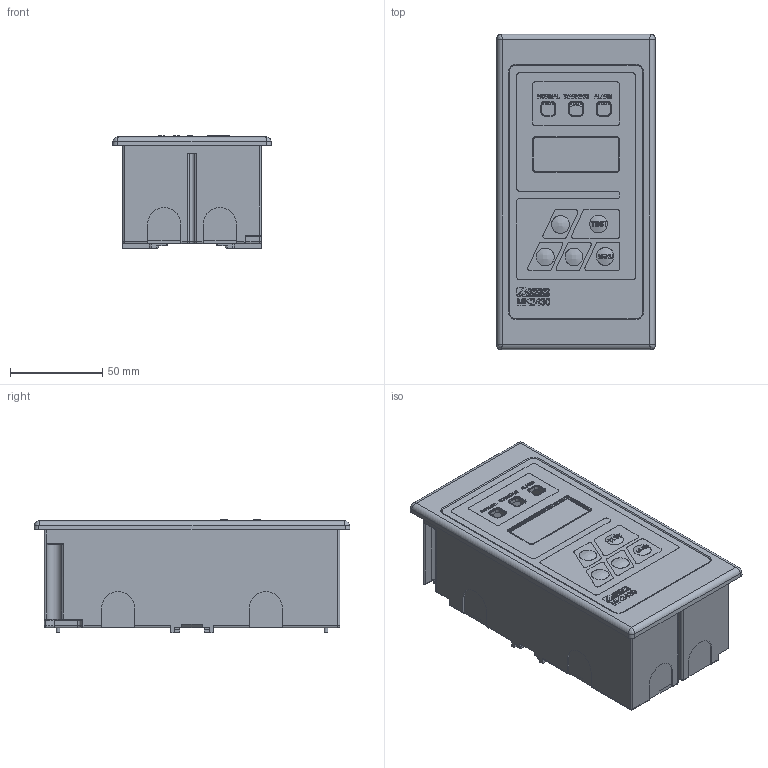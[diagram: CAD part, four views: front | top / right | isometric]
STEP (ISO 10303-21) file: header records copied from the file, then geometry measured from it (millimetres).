
FILE_DESCRIPTION (( 'STEP AP214' ), '1' );
FILE_NAME ('MK2430.STEP', '2013-05-28T12:46:00', ( 'User' ), ( 'Bender' ), 'SwSTEP 2.0', 'SolidWorks 2013', '' );
FILE_SCHEMA (( 'AUTOMOTIVE_DESIGN' ));
Length unit declared in the file: millimetre
Products named in the file (10): 370125; MCVW15_8-ST-381; 5.0n.nnn Abstandsbolzen (Stahl gelbchrom) Ettinger_5.02.054 (M2,5x5); 370058; 370070; LCD-BT42003; de151993.01_R300243; do151468.03E1_steck01; MK2430; Frontdesign
Assembly tree (12 placements, depth 2):
  MK2430
    do151468.03E1_steck01
    de151993.01_R300243
    LCD-BT42003
    370070
    370058
    5.0n.nnn Abstandsbolzen (Stahl gelbchrom) Ettinger_5.02.054 (M2,5x5)  x4
    MCVW15_8-ST-381
    370125
    Frontdesign
Bounding box: 86 x 171 x 61.4 mm (x, y, z)
Volume: 121113 mm3; surface area: 152854.4 mm2
Topology: 18 solids, 18 shells, 3349 faces, 8857 edges, 5793 vertices
Faces by surface type: plane 2290, cylinder 798, bspline 167, cone 56, torus 30, sphere 8
Entity records: 123733 total; most frequent: CARTESIAN_POINT 31429, ORIENTED_EDGE 17354, DIRECTION 15866, EDGE_CURVE 8677, LINE 6176, VECTOR 6176, VERTEX_POINT 5709, AXIS2_PLACEMENT_3D 4845
